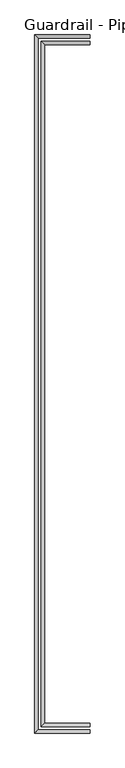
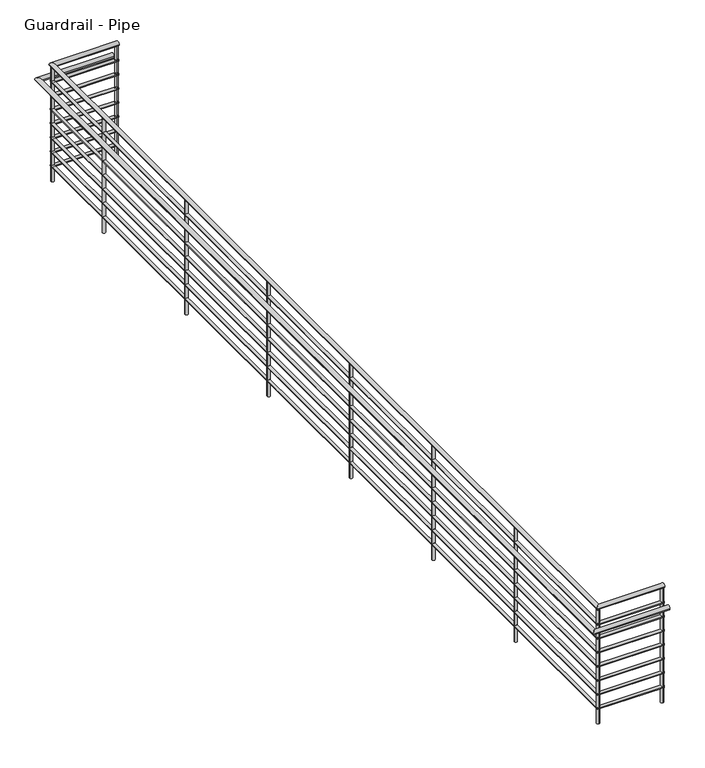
"""IFC4 building model written with IfcOpenShell, lengths in millimetres: railing geometry, Guardrail - Pipe."""

from ifc_helpers import new_model, si_unit, point, frame, frame_2d, origin, place, context, project, spatial, circle_curve, ellipse_curve, trimmed, segment, composite_curve, outline, extrude, source, transform, mapped, element, save
from ifc_brep_helpers import plane_surface, cylinder_surface, advanced_brep


def guardrail_pipe_205078b6(model_context):
    return source(origin(), model_context, "Body", "SolidModel", [
        advanced_brep(
        [(11534.3313551, 10867.95, 4705.35), (11534.3313551, 10906.05, 4705.35), (10956.4813551, 10867.95, 4705.35), (10994.5813551, 10906.05, 4705.35), (10956.4813551, 18983.25, 4705.35), (10994.5813551, 18945.15, 4705.35), (11534.3313551, 18983.25, 4705.35), (11534.3313551, 18945.15, 4705.35)],
        [
            (0, 1, circle_curve(frame((11534.3313551, 10887.0, 4705.35), z_axis=(1.0, 0.0, 0.0), x_axis=(0.0, 1.0, 0.0)), 19.05)),
            (1, 0, circle_curve(frame((11534.3313551, 10887.0, 4705.35), z_axis=(1.0, 0.0, 0.0), x_axis=(0.0, 1.0, 0.0)), 19.05)),
            (0, 2),
            (2, 3, ellipse_curve(frame((10975.5313551, 10887.0, 4705.35), z_axis=(0.7071067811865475, -0.7071067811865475, 0.0), x_axis=(0.7071067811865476, 0.7071067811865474, 0.0)), 26.9407684, 19.05)),
            (3, 1),
            (3, 2, ellipse_curve(frame((10975.5313551, 10887.0, 4705.35), z_axis=(0.7071067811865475, -0.7071067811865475, 0.0), x_axis=(0.7071067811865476, 0.7071067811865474, 0.0)), 26.9407684, 19.05)),
            (2, 4),
            (4, 5, ellipse_curve(frame((10975.5313551, 18964.2, 4705.35), z_axis=(-0.7071067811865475, -0.7071067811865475, 0.0), x_axis=(0.7071067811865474, -0.7071067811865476, 0.0)), 26.9407684, 19.05)),
            (5, 3),
            (5, 4, ellipse_curve(frame((10975.5313551, 18964.2, 4705.35), z_axis=(-0.7071067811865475, -0.7071067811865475, 0.0), x_axis=(0.7071067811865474, -0.7071067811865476, 0.0)), 26.9407684, 19.05)),
            (6, 7, circle_curve(frame((11534.3313551, 18964.2, 4705.35), z_axis=(1.0, 0.0, 0.0), x_axis=(0.0, -1.0, 0.0)), 19.05)),
            (7, 6, circle_curve(frame((11534.3313551, 18964.2, 4705.35), z_axis=(1.0, 0.0, 0.0), x_axis=(0.0, -1.0, 0.0)), 19.05)),
            (4, 6),
            (7, 5),
        ],
        [
            plane_surface(frame((11534.3313551, 10887.0, 4724.4), z_axis=(1.0, 0.0, 0.0), x_axis=(0.0, -1.0, 0.0))),
            cylinder_surface(frame((11534.3313551, 10887.0, 4705.35), z_axis=(1.0, 0.0, 0.0), x_axis=(0.0, 1.0, 0.0)), 19.05),
            cylinder_surface(frame((10975.5313551, 10887.0, 4705.35), z_axis=(0.0, -1.0, 0.0), x_axis=(1.0, 0.0, 0.0)), 19.05),
            plane_surface(frame((11534.3313551, 18964.2, 4724.4), z_axis=(1.0, 0.0, 0.0), x_axis=(0.0, 1.0, 0.0))),
            cylinder_surface(frame((10975.5313551, 18964.2, 4705.35), z_axis=(-1.0, 0.0, 0.0), x_axis=(0.0, -1.0, 0.0)), 19.05),
        ],
        [
            (0, [[1, 2]]),
            (1, [[-1, 3, 4, 5]]),
            (1, [[-2, -5, 6, -3]]),
            (2, [[-4, 7, 8, 9]]),
            (2, [[-6, -9, 10, -7]]),
            (3, [[11, 12]]),
            (4, [[-8, 13, -12, 14]]),
            (4, [[-10, -14, -11, -13]]),
        ],
    ),
        advanced_brep(
        [(11534.3313551, 10874.3, 4559.3), (11534.3313551, 10899.7, 4559.3), (10962.8313551, 10874.3, 4559.3), (10988.2313551, 10899.7, 4559.3), (10962.8313551, 18976.9, 4559.3), (10988.2313551, 18951.5, 4559.3), (11534.3313551, 18976.9, 4559.3), (11534.3313551, 18951.5, 4559.3)],
        [
            (0, 1, circle_curve(frame((11534.3313551, 10887.0, 4559.3), z_axis=(1.0, 0.0, 0.0), x_axis=(0.0, 1.0, 0.0)), 12.7)),
            (1, 0, circle_curve(frame((11534.3313551, 10887.0, 4559.3), z_axis=(1.0, 0.0, 0.0), x_axis=(0.0, 1.0, 0.0)), 12.7)),
            (0, 2),
            (2, 3, ellipse_curve(frame((10975.5313551, 10887.0, 4559.3), z_axis=(0.7071067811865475, -0.7071067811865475, 0.0), x_axis=(0.7071067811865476, 0.7071067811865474, 0.0)), 17.9605122, 12.7)),
            (3, 1),
            (3, 2, ellipse_curve(frame((10975.5313551, 10887.0, 4559.3), z_axis=(0.7071067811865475, -0.7071067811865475, 0.0), x_axis=(0.7071067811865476, 0.7071067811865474, 0.0)), 17.9605122, 12.7)),
            (2, 4),
            (4, 5, ellipse_curve(frame((10975.5313551, 18964.2, 4559.3), z_axis=(-0.7071067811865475, -0.7071067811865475, 0.0), x_axis=(0.7071067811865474, -0.7071067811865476, 0.0)), 17.9605122, 12.7)),
            (5, 3),
            (5, 4, ellipse_curve(frame((10975.5313551, 18964.2, 4559.3), z_axis=(-0.7071067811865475, -0.7071067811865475, 0.0), x_axis=(0.7071067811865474, -0.7071067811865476, 0.0)), 17.9605122, 12.7)),
            (6, 7, circle_curve(frame((11534.3313551, 18964.2, 4559.3), z_axis=(1.0, 0.0, 0.0), x_axis=(0.0, -1.0, 0.0)), 12.7)),
            (7, 6, circle_curve(frame((11534.3313551, 18964.2, 4559.3), z_axis=(1.0, 0.0, 0.0), x_axis=(0.0, -1.0, 0.0)), 12.7)),
            (4, 6),
            (7, 5),
        ],
        [
            plane_surface(frame((11534.3313551, 10887.0, 4572.0), z_axis=(1.0, 0.0, 0.0), x_axis=(0.0, -1.0, 0.0))),
            cylinder_surface(frame((11534.3313551, 10887.0, 4559.3), z_axis=(1.0, 0.0, 0.0), x_axis=(0.0, 1.0, 0.0)), 12.7),
            cylinder_surface(frame((10975.5313551, 10887.0, 4559.3), z_axis=(0.0, -1.0, 0.0), x_axis=(1.0, 0.0, 0.0)), 12.7),
            plane_surface(frame((11534.3313551, 18964.2, 4572.0), z_axis=(1.0, 0.0, 0.0), x_axis=(0.0, 1.0, 0.0))),
            cylinder_surface(frame((10975.5313551, 18964.2, 4559.3), z_axis=(-1.0, 0.0, 0.0), x_axis=(0.0, -1.0, 0.0)), 12.7),
        ],
        [
            (0, [[1, 2]]),
            (1, [[-1, 3, 4, 5]]),
            (1, [[-2, -5, 6, -3]]),
            (2, [[-4, 7, 8, 9]]),
            (2, [[-6, -9, 10, -7]]),
            (3, [[11, 12]]),
            (4, [[-8, 13, -12, 14]]),
            (4, [[-10, -14, -11, -13]]),
        ],
    ),
        advanced_brep(
        [(11534.3313551, 10791.75, 4552.95), (11534.3313551, 10829.85, 4552.95), (10880.2813551, 10791.75, 4552.95), (10918.3813551, 10829.85, 4552.95), (10880.2813551, 19059.45, 4552.95), (10918.3813551, 19021.35, 4552.95), (11534.3313551, 19059.45, 4552.95), (11534.3313551, 19021.35, 4552.95)],
        [
            (0, 1, circle_curve(frame((11534.3313551, 10810.8, 4552.95), z_axis=(1.0, 0.0, 0.0), x_axis=(0.0, 1.0, 0.0)), 19.05)),
            (1, 0, circle_curve(frame((11534.3313551, 10810.8, 4552.95), z_axis=(1.0, 0.0, 0.0), x_axis=(0.0, 1.0, 0.0)), 19.05)),
            (0, 2),
            (2, 3, ellipse_curve(frame((10899.3313551, 10810.8, 4552.95), z_axis=(0.7071067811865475, -0.7071067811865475, 0.0), x_axis=(0.7071067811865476, 0.7071067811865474, 0.0)), 26.9407684, 19.05)),
            (3, 1),
            (3, 2, ellipse_curve(frame((10899.3313551, 10810.8, 4552.95), z_axis=(0.7071067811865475, -0.7071067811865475, 0.0), x_axis=(0.7071067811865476, 0.7071067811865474, 0.0)), 26.9407684, 19.05)),
            (2, 4),
            (4, 5, ellipse_curve(frame((10899.3313551, 19040.4, 4552.95), z_axis=(-0.7071067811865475, -0.7071067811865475, 0.0), x_axis=(0.7071067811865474, -0.7071067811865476, 0.0)), 26.9407684, 19.05)),
            (5, 3),
            (5, 4, ellipse_curve(frame((10899.3313551, 19040.4, 4552.95), z_axis=(-0.7071067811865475, -0.7071067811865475, 0.0), x_axis=(0.7071067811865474, -0.7071067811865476, 0.0)), 26.9407684, 19.05)),
            (6, 7, circle_curve(frame((11534.3313551, 19040.4, 4552.95), z_axis=(1.0, 0.0, 0.0), x_axis=(0.0, -1.0, 0.0)), 19.05)),
            (7, 6, circle_curve(frame((11534.3313551, 19040.4, 4552.95), z_axis=(1.0, 0.0, 0.0), x_axis=(0.0, -1.0, 0.0)), 19.05)),
            (4, 6),
            (7, 5),
        ],
        [
            plane_surface(frame((11534.3313551, 10810.8, 4572.0), z_axis=(1.0, 0.0, 0.0), x_axis=(0.0, -1.0, 0.0))),
            cylinder_surface(frame((11534.3313551, 10810.8, 4552.95), z_axis=(1.0, 0.0, 0.0), x_axis=(0.0, 1.0, 0.0)), 19.05),
            cylinder_surface(frame((10899.3313551, 10810.8, 4552.95), z_axis=(0.0, -1.0, 0.0), x_axis=(1.0, 0.0, 0.0)), 19.05),
            plane_surface(frame((11534.3313551, 19040.4, 4572.0), z_axis=(1.0, 0.0, 0.0), x_axis=(0.0, 1.0, 0.0))),
            cylinder_surface(frame((10899.3313551, 19040.4, 4552.95), z_axis=(-1.0, 0.0, 0.0), x_axis=(0.0, -1.0, 0.0)), 19.05),
        ],
        [
            (0, [[1, 2]]),
            (1, [[-1, 3, 4, 5]]),
            (1, [[-2, -5, 6, -3]]),
            (2, [[-4, 7, 8, 9]]),
            (2, [[-6, -9, 10, -7]]),
            (3, [[11, 12]]),
            (4, [[-8, 13, -12, 14]]),
            (4, [[-10, -14, -11, -13]]),
        ],
    ),
        advanced_brep(
        [(11534.3313551, 10874.3, 4432.3), (11534.3313551, 10899.7, 4432.3), (10962.8313551, 10874.3, 4432.3), (10988.2313551, 10899.7, 4432.3), (10962.8313551, 18976.9, 4432.3), (10988.2313551, 18951.5, 4432.3), (11534.3313551, 18976.9, 4432.3), (11534.3313551, 18951.5, 4432.3)],
        [
            (0, 1, circle_curve(frame((11534.3313551, 10887.0, 4432.3), z_axis=(1.0, 0.0, 0.0), x_axis=(0.0, 1.0, 0.0)), 12.7)),
            (1, 0, circle_curve(frame((11534.3313551, 10887.0, 4432.3), z_axis=(1.0, 0.0, 0.0), x_axis=(0.0, 1.0, 0.0)), 12.7)),
            (0, 2),
            (2, 3, ellipse_curve(frame((10975.5313551, 10887.0, 4432.3), z_axis=(0.7071067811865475, -0.7071067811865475, 0.0), x_axis=(0.7071067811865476, 0.7071067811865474, 0.0)), 17.9605122, 12.7)),
            (3, 1),
            (3, 2, ellipse_curve(frame((10975.5313551, 10887.0, 4432.3), z_axis=(0.7071067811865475, -0.7071067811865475, 0.0), x_axis=(0.7071067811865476, 0.7071067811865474, 0.0)), 17.9605122, 12.7)),
            (2, 4),
            (4, 5, ellipse_curve(frame((10975.5313551, 18964.2, 4432.3), z_axis=(-0.7071067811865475, -0.7071067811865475, 0.0), x_axis=(0.7071067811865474, -0.7071067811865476, 0.0)), 17.9605122, 12.7)),
            (5, 3),
            (5, 4, ellipse_curve(frame((10975.5313551, 18964.2, 4432.3), z_axis=(-0.7071067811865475, -0.7071067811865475, 0.0), x_axis=(0.7071067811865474, -0.7071067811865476, 0.0)), 17.9605122, 12.7)),
            (6, 7, circle_curve(frame((11534.3313551, 18964.2, 4432.3), z_axis=(1.0, 0.0, 0.0), x_axis=(0.0, -1.0, 0.0)), 12.7)),
            (7, 6, circle_curve(frame((11534.3313551, 18964.2, 4432.3), z_axis=(1.0, 0.0, 0.0), x_axis=(0.0, -1.0, 0.0)), 12.7)),
            (4, 6),
            (7, 5),
        ],
        [
            plane_surface(frame((11534.3313551, 10887.0, 4445.0), z_axis=(1.0, 0.0, 0.0), x_axis=(0.0, -1.0, 0.0))),
            cylinder_surface(frame((11534.3313551, 10887.0, 4432.3), z_axis=(1.0, 0.0, 0.0), x_axis=(0.0, 1.0, 0.0)), 12.7),
            cylinder_surface(frame((10975.5313551, 10887.0, 4432.3), z_axis=(0.0, -1.0, 0.0), x_axis=(1.0, 0.0, 0.0)), 12.7),
            plane_surface(frame((11534.3313551, 18964.2, 4445.0), z_axis=(1.0, 0.0, 0.0), x_axis=(0.0, 1.0, 0.0))),
            cylinder_surface(frame((10975.5313551, 18964.2, 4432.3), z_axis=(-1.0, 0.0, 0.0), x_axis=(0.0, -1.0, 0.0)), 12.7),
        ],
        [
            (0, [[1, 2]]),
            (1, [[-1, 3, 4, 5]]),
            (1, [[-2, -5, 6, -3]]),
            (2, [[-4, 7, 8, 9]]),
            (2, [[-6, -9, 10, -7]]),
            (3, [[11, 12]]),
            (4, [[-8, 13, -12, 14]]),
            (4, [[-10, -14, -11, -13]]),
        ],
    ),
        advanced_brep(
        [(11534.3313551, 10874.3, 4305.3), (11534.3313551, 10899.7, 4305.3), (10962.8313551, 10874.3, 4305.3), (10988.2313551, 10899.7, 4305.3), (10962.8313551, 18976.9, 4305.3), (10988.2313551, 18951.5, 4305.3), (11534.3313551, 18976.9, 4305.3), (11534.3313551, 18951.5, 4305.3)],
        [
            (0, 1, circle_curve(frame((11534.3313551, 10887.0, 4305.3), z_axis=(1.0, 0.0, 0.0), x_axis=(0.0, 1.0, 0.0)), 12.7)),
            (1, 0, circle_curve(frame((11534.3313551, 10887.0, 4305.3), z_axis=(1.0, 0.0, 0.0), x_axis=(0.0, 1.0, 0.0)), 12.7)),
            (0, 2),
            (2, 3, ellipse_curve(frame((10975.5313551, 10887.0, 4305.3), z_axis=(0.7071067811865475, -0.7071067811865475, 0.0), x_axis=(0.7071067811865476, 0.7071067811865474, 0.0)), 17.9605122, 12.7)),
            (3, 1),
            (3, 2, ellipse_curve(frame((10975.5313551, 10887.0, 4305.3), z_axis=(0.7071067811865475, -0.7071067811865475, 0.0), x_axis=(0.7071067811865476, 0.7071067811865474, 0.0)), 17.9605122, 12.7)),
            (2, 4),
            (4, 5, ellipse_curve(frame((10975.5313551, 18964.2, 4305.3), z_axis=(-0.7071067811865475, -0.7071067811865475, 0.0), x_axis=(0.7071067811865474, -0.7071067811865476, 0.0)), 17.9605122, 12.7)),
            (5, 3),
            (5, 4, ellipse_curve(frame((10975.5313551, 18964.2, 4305.3), z_axis=(-0.7071067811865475, -0.7071067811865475, 0.0), x_axis=(0.7071067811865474, -0.7071067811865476, 0.0)), 17.9605122, 12.7)),
            (6, 7, circle_curve(frame((11534.3313551, 18964.2, 4305.3), z_axis=(1.0, 0.0, 0.0), x_axis=(0.0, -1.0, 0.0)), 12.7)),
            (7, 6, circle_curve(frame((11534.3313551, 18964.2, 4305.3), z_axis=(1.0, 0.0, 0.0), x_axis=(0.0, -1.0, 0.0)), 12.7)),
            (4, 6),
            (7, 5),
        ],
        [
            plane_surface(frame((11534.3313551, 10887.0, 4318.0), z_axis=(1.0, 0.0, 0.0), x_axis=(0.0, -1.0, 0.0))),
            cylinder_surface(frame((11534.3313551, 10887.0, 4305.3), z_axis=(1.0, 0.0, 0.0), x_axis=(0.0, 1.0, 0.0)), 12.7),
            cylinder_surface(frame((10975.5313551, 10887.0, 4305.3), z_axis=(0.0, -1.0, 0.0), x_axis=(1.0, 0.0, 0.0)), 12.7),
            plane_surface(frame((11534.3313551, 18964.2, 4318.0), z_axis=(1.0, 0.0, 0.0), x_axis=(0.0, 1.0, 0.0))),
            cylinder_surface(frame((10975.5313551, 18964.2, 4305.3), z_axis=(-1.0, 0.0, 0.0), x_axis=(0.0, -1.0, 0.0)), 12.7),
        ],
        [
            (0, [[1, 2]]),
            (1, [[-1, 3, 4, 5]]),
            (1, [[-2, -5, 6, -3]]),
            (2, [[-4, 7, 8, 9]]),
            (2, [[-6, -9, 10, -7]]),
            (3, [[11, 12]]),
            (4, [[-8, 13, -12, 14]]),
            (4, [[-10, -14, -11, -13]]),
        ],
    ),
        advanced_brep(
        [(11534.3313551, 10874.3, 4178.3), (11534.3313551, 10899.7, 4178.3), (10962.8313551, 10874.3, 4178.3), (10988.2313551, 10899.7, 4178.3), (10962.8313551, 18976.9, 4178.3), (10988.2313551, 18951.5, 4178.3), (11534.3313551, 18976.9, 4178.3), (11534.3313551, 18951.5, 4178.3)],
        [
            (0, 1, circle_curve(frame((11534.3313551, 10887.0, 4178.3), z_axis=(1.0, 0.0, 0.0), x_axis=(0.0, 1.0, 0.0)), 12.7)),
            (1, 0, circle_curve(frame((11534.3313551, 10887.0, 4178.3), z_axis=(1.0, 0.0, 0.0), x_axis=(0.0, 1.0, 0.0)), 12.7)),
            (0, 2),
            (2, 3, ellipse_curve(frame((10975.5313551, 10887.0, 4178.3), z_axis=(0.7071067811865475, -0.7071067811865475, 0.0), x_axis=(0.7071067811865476, 0.7071067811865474, 0.0)), 17.9605122, 12.7)),
            (3, 1),
            (3, 2, ellipse_curve(frame((10975.5313551, 10887.0, 4178.3), z_axis=(0.7071067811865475, -0.7071067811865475, 0.0), x_axis=(0.7071067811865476, 0.7071067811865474, 0.0)), 17.9605122, 12.7)),
            (2, 4),
            (4, 5, ellipse_curve(frame((10975.5313551, 18964.2, 4178.3), z_axis=(-0.7071067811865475, -0.7071067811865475, 0.0), x_axis=(0.7071067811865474, -0.7071067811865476, 0.0)), 17.9605122, 12.7)),
            (5, 3),
            (5, 4, ellipse_curve(frame((10975.5313551, 18964.2, 4178.3), z_axis=(-0.7071067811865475, -0.7071067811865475, 0.0), x_axis=(0.7071067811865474, -0.7071067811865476, 0.0)), 17.9605122, 12.7)),
            (6, 7, circle_curve(frame((11534.3313551, 18964.2, 4178.3), z_axis=(1.0, 0.0, 0.0), x_axis=(0.0, -1.0, 0.0)), 12.7)),
            (7, 6, circle_curve(frame((11534.3313551, 18964.2, 4178.3), z_axis=(1.0, 0.0, 0.0), x_axis=(0.0, -1.0, 0.0)), 12.7)),
            (4, 6),
            (7, 5),
        ],
        [
            plane_surface(frame((11534.3313551, 10887.0, 4191.0), z_axis=(1.0, 0.0, 0.0), x_axis=(0.0, -1.0, 0.0))),
            cylinder_surface(frame((11534.3313551, 10887.0, 4178.3), z_axis=(1.0, 0.0, 0.0), x_axis=(0.0, 1.0, 0.0)), 12.7),
            cylinder_surface(frame((10975.5313551, 10887.0, 4178.3), z_axis=(0.0, -1.0, 0.0), x_axis=(1.0, 0.0, 0.0)), 12.7),
            plane_surface(frame((11534.3313551, 18964.2, 4191.0), z_axis=(1.0, 0.0, 0.0), x_axis=(0.0, 1.0, 0.0))),
            cylinder_surface(frame((10975.5313551, 18964.2, 4178.3), z_axis=(-1.0, 0.0, 0.0), x_axis=(0.0, -1.0, 0.0)), 12.7),
        ],
        [
            (0, [[1, 2]]),
            (1, [[-1, 3, 4, 5]]),
            (1, [[-2, -5, 6, -3]]),
            (2, [[-4, 7, 8, 9]]),
            (2, [[-6, -9, 10, -7]]),
            (3, [[11, 12]]),
            (4, [[-8, 13, -12, 14]]),
            (4, [[-10, -14, -11, -13]]),
        ],
    ),
        advanced_brep(
        [(11534.3313551, 10874.3, 4051.3), (11534.3313551, 10899.7, 4051.3), (10962.8313551, 10874.3, 4051.3), (10988.2313551, 10899.7, 4051.3), (10962.8313551, 18976.9, 4051.3), (10988.2313551, 18951.5, 4051.3), (11534.3313551, 18976.9, 4051.3), (11534.3313551, 18951.5, 4051.3)],
        [
            (0, 1, circle_curve(frame((11534.3313551, 10887.0, 4051.3), z_axis=(1.0, 0.0, 0.0), x_axis=(0.0, 1.0, 0.0)), 12.7)),
            (1, 0, circle_curve(frame((11534.3313551, 10887.0, 4051.3), z_axis=(1.0, 0.0, 0.0), x_axis=(0.0, 1.0, 0.0)), 12.7)),
            (0, 2),
            (2, 3, ellipse_curve(frame((10975.5313551, 10887.0, 4051.3), z_axis=(0.7071067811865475, -0.7071067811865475, 0.0), x_axis=(0.7071067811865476, 0.7071067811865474, 0.0)), 17.9605122, 12.7)),
            (3, 1),
            (3, 2, ellipse_curve(frame((10975.5313551, 10887.0, 4051.3), z_axis=(0.7071067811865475, -0.7071067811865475, 0.0), x_axis=(0.7071067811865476, 0.7071067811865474, 0.0)), 17.9605122, 12.7)),
            (2, 4),
            (4, 5, ellipse_curve(frame((10975.5313551, 18964.2, 4051.3), z_axis=(-0.7071067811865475, -0.7071067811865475, 0.0), x_axis=(0.7071067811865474, -0.7071067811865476, 0.0)), 17.9605122, 12.7)),
            (5, 3),
            (5, 4, ellipse_curve(frame((10975.5313551, 18964.2, 4051.3), z_axis=(-0.7071067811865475, -0.7071067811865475, 0.0), x_axis=(0.7071067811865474, -0.7071067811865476, 0.0)), 17.9605122, 12.7)),
            (6, 7, circle_curve(frame((11534.3313551, 18964.2, 4051.3), z_axis=(1.0, 0.0, 0.0), x_axis=(0.0, -1.0, 0.0)), 12.7)),
            (7, 6, circle_curve(frame((11534.3313551, 18964.2, 4051.3), z_axis=(1.0, 0.0, 0.0), x_axis=(0.0, -1.0, 0.0)), 12.7)),
            (4, 6),
            (7, 5),
        ],
        [
            plane_surface(frame((11534.3313551, 10887.0, 4064.0), z_axis=(1.0, 0.0, 0.0), x_axis=(0.0, -1.0, 0.0))),
            cylinder_surface(frame((11534.3313551, 10887.0, 4051.3), z_axis=(1.0, 0.0, 0.0), x_axis=(0.0, 1.0, 0.0)), 12.7),
            cylinder_surface(frame((10975.5313551, 10887.0, 4051.3), z_axis=(0.0, -1.0, 0.0), x_axis=(1.0, 0.0, 0.0)), 12.7),
            plane_surface(frame((11534.3313551, 18964.2, 4064.0), z_axis=(1.0, 0.0, 0.0), x_axis=(0.0, 1.0, 0.0))),
            cylinder_surface(frame((10975.5313551, 18964.2, 4051.3), z_axis=(-1.0, 0.0, 0.0), x_axis=(0.0, -1.0, 0.0)), 12.7),
        ],
        [
            (0, [[1, 2]]),
            (1, [[-1, 3, 4, 5]]),
            (1, [[-2, -5, 6, -3]]),
            (2, [[-4, 7, 8, 9]]),
            (2, [[-6, -9, 10, -7]]),
            (3, [[11, 12]]),
            (4, [[-8, 13, -12, 14]]),
            (4, [[-10, -14, -11, -13]]),
        ],
    ),
        advanced_brep(
        [(11534.3313551, 10874.3, 3924.3), (11534.3313551, 10899.7, 3924.3), (10962.8313551, 10874.3, 3924.3), (10988.2313551, 10899.7, 3924.3), (10962.8313551, 18976.9, 3924.3), (10988.2313551, 18951.5, 3924.3), (11534.3313551, 18976.9, 3924.3), (11534.3313551, 18951.5, 3924.3)],
        [
            (0, 1, circle_curve(frame((11534.3313551, 10887.0, 3924.3), z_axis=(1.0, 0.0, 0.0), x_axis=(0.0, 1.0, 0.0)), 12.7)),
            (1, 0, circle_curve(frame((11534.3313551, 10887.0, 3924.3), z_axis=(1.0, 0.0, 0.0), x_axis=(0.0, 1.0, 0.0)), 12.7)),
            (0, 2),
            (2, 3, ellipse_curve(frame((10975.5313551, 10887.0, 3924.3), z_axis=(0.7071067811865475, -0.7071067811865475, 0.0), x_axis=(0.7071067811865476, 0.7071067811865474, 0.0)), 17.9605122, 12.7)),
            (3, 1),
            (3, 2, ellipse_curve(frame((10975.5313551, 10887.0, 3924.3), z_axis=(0.7071067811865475, -0.7071067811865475, 0.0), x_axis=(0.7071067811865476, 0.7071067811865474, 0.0)), 17.9605122, 12.7)),
            (2, 4),
            (4, 5, ellipse_curve(frame((10975.5313551, 18964.2, 3924.3), z_axis=(-0.7071067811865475, -0.7071067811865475, 0.0), x_axis=(0.7071067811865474, -0.7071067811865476, 0.0)), 17.9605122, 12.7)),
            (5, 3),
            (5, 4, ellipse_curve(frame((10975.5313551, 18964.2, 3924.3), z_axis=(-0.7071067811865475, -0.7071067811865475, 0.0), x_axis=(0.7071067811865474, -0.7071067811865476, 0.0)), 17.9605122, 12.7)),
            (6, 7, circle_curve(frame((11534.3313551, 18964.2, 3924.3), z_axis=(1.0, 0.0, 0.0), x_axis=(0.0, -1.0, 0.0)), 12.7)),
            (7, 6, circle_curve(frame((11534.3313551, 18964.2, 3924.3), z_axis=(1.0, 0.0, 0.0), x_axis=(0.0, -1.0, 0.0)), 12.7)),
            (4, 6),
            (7, 5),
        ],
        [
            plane_surface(frame((11534.3313551, 10887.0, 3937.0), z_axis=(1.0, 0.0, 0.0), x_axis=(0.0, -1.0, 0.0))),
            cylinder_surface(frame((11534.3313551, 10887.0, 3924.3), z_axis=(1.0, 0.0, 0.0), x_axis=(0.0, 1.0, 0.0)), 12.7),
            cylinder_surface(frame((10975.5313551, 10887.0, 3924.3), z_axis=(0.0, -1.0, 0.0), x_axis=(1.0, 0.0, 0.0)), 12.7),
            plane_surface(frame((11534.3313551, 18964.2, 3937.0), z_axis=(1.0, 0.0, 0.0), x_axis=(0.0, 1.0, 0.0))),
            cylinder_surface(frame((10975.5313551, 18964.2, 3924.3), z_axis=(-1.0, 0.0, 0.0), x_axis=(0.0, -1.0, 0.0)), 12.7),
        ],
        [
            (0, [[1, 2]]),
            (1, [[-1, 3, 4, 5]]),
            (1, [[-2, -5, 6, -3]]),
            (2, [[-4, 7, 8, 9]]),
            (2, [[-6, -9, 10, -7]]),
            (3, [[11, 12]]),
            (4, [[-8, 13, -12, 14]]),
            (4, [[-10, -14, -11, -13]]),
        ],
    ),
        advanced_brep(
        [(11534.3313551, 10874.3, 3797.3), (11534.3313551, 10899.7, 3797.3), (10962.8313551, 10874.3, 3797.3), (10988.2313551, 10899.7, 3797.3), (10962.8313551, 18976.9, 3797.3), (10988.2313551, 18951.5, 3797.3), (11534.3313551, 18976.9, 3797.3), (11534.3313551, 18951.5, 3797.3)],
        [
            (0, 1, circle_curve(frame((11534.3313551, 10887.0, 3797.3), z_axis=(1.0, 0.0, 0.0), x_axis=(0.0, 1.0, 0.0)), 12.7)),
            (1, 0, circle_curve(frame((11534.3313551, 10887.0, 3797.3), z_axis=(1.0, 0.0, 0.0), x_axis=(0.0, 1.0, 0.0)), 12.7)),
            (0, 2),
            (2, 3, ellipse_curve(frame((10975.5313551, 10887.0, 3797.3), z_axis=(0.7071067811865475, -0.7071067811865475, 0.0), x_axis=(0.7071067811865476, 0.7071067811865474, 0.0)), 17.9605122, 12.7)),
            (3, 1),
            (3, 2, ellipse_curve(frame((10975.5313551, 10887.0, 3797.3), z_axis=(0.7071067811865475, -0.7071067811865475, 0.0), x_axis=(0.7071067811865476, 0.7071067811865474, 0.0)), 17.9605122, 12.7)),
            (2, 4),
            (4, 5, ellipse_curve(frame((10975.5313551, 18964.2, 3797.3), z_axis=(-0.7071067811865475, -0.7071067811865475, 0.0), x_axis=(0.7071067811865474, -0.7071067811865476, 0.0)), 17.9605122, 12.7)),
            (5, 3),
            (5, 4, ellipse_curve(frame((10975.5313551, 18964.2, 3797.3), z_axis=(-0.7071067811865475, -0.7071067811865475, 0.0), x_axis=(0.7071067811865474, -0.7071067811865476, 0.0)), 17.9605122, 12.7)),
            (6, 7, circle_curve(frame((11534.3313551, 18964.2, 3797.3), z_axis=(1.0, 0.0, 0.0), x_axis=(0.0, -1.0, 0.0)), 12.7)),
            (7, 6, circle_curve(frame((11534.3313551, 18964.2, 3797.3), z_axis=(1.0, 0.0, 0.0), x_axis=(0.0, -1.0, 0.0)), 12.7)),
            (4, 6),
            (7, 5),
        ],
        [
            plane_surface(frame((11534.3313551, 10887.0, 3810.0), z_axis=(1.0, 0.0, 0.0), x_axis=(0.0, -1.0, 0.0))),
            cylinder_surface(frame((11534.3313551, 10887.0, 3797.3), z_axis=(1.0, 0.0, 0.0), x_axis=(0.0, 1.0, 0.0)), 12.7),
            cylinder_surface(frame((10975.5313551, 10887.0, 3797.3), z_axis=(0.0, -1.0, 0.0), x_axis=(1.0, 0.0, 0.0)), 12.7),
            plane_surface(frame((11534.3313551, 18964.2, 3810.0), z_axis=(1.0, 0.0, 0.0), x_axis=(0.0, 1.0, 0.0))),
            cylinder_surface(frame((10975.5313551, 18964.2, 3797.3), z_axis=(-1.0, 0.0, 0.0), x_axis=(0.0, -1.0, 0.0)), 12.7),
        ],
        [
            (0, [[1, 2]]),
            (1, [[-1, 3, 4, 5]]),
            (1, [[-2, -5, 6, -3]]),
            (2, [[-4, 7, 8, 9]]),
            (2, [[-6, -9, 10, -7]]),
            (3, [[11, 12]]),
            (4, [[-8, 13, -12, 14]]),
            (4, [[-10, -14, -11, -13]]),
        ],
    ),
        extrude(outline(composite_curve([segment(trimmed(circle_curve(frame_2d((10975.5313551, 18202.2)), 12.7), [point((10962.8313551, 18202.2))], [point((10988.2313551, 18202.2))], False, "CARTESIAN"), True, "CONTINUOUS"), segment(trimmed(circle_curve(frame_2d((10975.5313551, 18202.2)), 12.7), [point((10988.2313551, 18202.2))], [point((10962.8313551, 18202.2))], False, "CARTESIAN"), True, "CONTINUOUS")], self_intersect=False)), frame((0.0, 0.0, 3657.6), z_axis=(0.0, 0.0, 1.0), x_axis=(1.0, 0.0, 0.0)), (0.0, 0.0, 1.0), 1028.7),
        extrude(outline(composite_curve([segment(trimmed(circle_curve(frame_2d((10975.5313551, 16983.0)), 12.7), [point((10962.8313551, 16983.0))], [point((10988.2313551, 16983.0))], False, "CARTESIAN"), True, "CONTINUOUS"), segment(trimmed(circle_curve(frame_2d((10975.5313551, 16983.0)), 12.7), [point((10988.2313551, 16983.0))], [point((10962.8313551, 16983.0))], False, "CARTESIAN"), True, "CONTINUOUS")], self_intersect=False)), frame((0.0, 0.0, 3657.6), z_axis=(0.0, 0.0, 1.0), x_axis=(1.0, 0.0, 0.0)), (0.0, 0.0, 1.0), 1028.7),
        extrude(outline(composite_curve([segment(trimmed(circle_curve(frame_2d((10975.5313551, 15763.8)), 12.7), [point((10962.8313551, 15763.8))], [point((10988.2313551, 15763.8))], False, "CARTESIAN"), True, "CONTINUOUS"), segment(trimmed(circle_curve(frame_2d((10975.5313551, 15763.8)), 12.7), [point((10988.2313551, 15763.8))], [point((10962.8313551, 15763.8))], False, "CARTESIAN"), True, "CONTINUOUS")], self_intersect=False)), frame((0.0, 0.0, 3657.6), z_axis=(0.0, 0.0, 1.0), x_axis=(1.0, 0.0, 0.0)), (0.0, 0.0, 1.0), 1028.7),
        extrude(outline(composite_curve([segment(trimmed(circle_curve(frame_2d((10975.5313551, 14544.6)), 12.7), [point((10962.8313551, 14544.6))], [point((10988.2313551, 14544.6))], False, "CARTESIAN"), True, "CONTINUOUS"), segment(trimmed(circle_curve(frame_2d((10975.5313551, 14544.6)), 12.7), [point((10988.2313551, 14544.6))], [point((10962.8313551, 14544.6))], False, "CARTESIAN"), True, "CONTINUOUS")], self_intersect=False)), frame((0.0, 0.0, 3657.6), z_axis=(0.0, 0.0, 1.0), x_axis=(1.0, 0.0, 0.0)), (0.0, 0.0, 1.0), 1028.7),
        extrude(outline(composite_curve([segment(trimmed(circle_curve(frame_2d((10975.5313551, 13325.4)), 12.7), [point((10962.8313551, 13325.4))], [point((10988.2313551, 13325.4))], False, "CARTESIAN"), True, "CONTINUOUS"), segment(trimmed(circle_curve(frame_2d((10975.5313551, 13325.4)), 12.7), [point((10988.2313551, 13325.4))], [point((10962.8313551, 13325.4))], False, "CARTESIAN"), True, "CONTINUOUS")], self_intersect=False)), frame((0.0, 0.0, 3657.6), z_axis=(0.0, 0.0, 1.0), x_axis=(1.0, 0.0, 0.0)), (0.0, 0.0, 1.0), 1028.7),
        extrude(outline(composite_curve([segment(trimmed(circle_curve(frame_2d((10975.5313551, 12106.2)), 12.7), [point((10962.8313551, 12106.2))], [point((10988.2313551, 12106.2))], False, "CARTESIAN"), True, "CONTINUOUS"), segment(trimmed(circle_curve(frame_2d((10975.5313551, 12106.2)), 12.7), [point((10988.2313551, 12106.2))], [point((10962.8313551, 12106.2))], False, "CARTESIAN"), True, "CONTINUOUS")], self_intersect=False)), frame((0.0, 0.0, 3657.6), z_axis=(0.0, 0.0, 1.0), x_axis=(1.0, 0.0, 0.0)), (0.0, 0.0, 1.0), 1028.7),
        extrude(outline(composite_curve([segment(trimmed(circle_curve(frame_2d((10975.5313551, 18964.2)), 12.7), [point((10962.8313551, 18964.2))], [point((10988.2313551, 18964.2))], False, "CARTESIAN"), True, "CONTINUOUS"), segment(trimmed(circle_curve(frame_2d((10975.5313551, 18964.2)), 12.7), [point((10988.2313551, 18964.2))], [point((10962.8313551, 18964.2))], False, "CARTESIAN"), True, "CONTINUOUS")], self_intersect=False)), frame((0.0, 0.0, 3657.6), z_axis=(0.0, 0.0, 1.0), x_axis=(1.0, 0.0, 0.0)), (0.0, 0.0, 1.0), 1028.7),
        extrude(outline(composite_curve([segment(trimmed(circle_curve(frame_2d((10975.5313551, 10887.0)), 12.7), [point((10975.5313551, 10874.3))], [point((10975.5313551, 10899.7))], False, "CARTESIAN"), True, "CONTINUOUS"), segment(trimmed(circle_curve(frame_2d((10975.5313551, 10887.0)), 12.7), [point((10975.5313551, 10899.7))], [point((10975.5313551, 10874.3))], False, "CARTESIAN"), True, "CONTINUOUS")], self_intersect=False)), frame((0.0, 0.0, 3657.6), z_axis=(0.0, 0.0, 1.0), x_axis=(1.0, 0.0, 0.0)), (0.0, 0.0, 1.0), 1028.7),
        extrude(outline(composite_curve([segment(trimmed(circle_curve(frame_2d((11521.6313551, 18964.2)), 12.7), [point((11521.6313551, 18976.9))], [point((11521.6313551, 18951.5))], False, "CARTESIAN"), True, "CONTINUOUS"), segment(trimmed(circle_curve(frame_2d((11521.6313551, 18964.2)), 12.7), [point((11521.6313551, 18951.5))], [point((11521.6313551, 18976.9))], False, "CARTESIAN"), True, "CONTINUOUS")], self_intersect=False)), frame((0.0, 0.0, 3657.6), z_axis=(0.0, 0.0, 1.0), x_axis=(1.0, 0.0, 0.0)), (0.0, 0.0, 1.0), 1028.7),
        extrude(outline(composite_curve([segment(trimmed(circle_curve(frame_2d((11521.6313551, 10887.0)), 12.7), [point((11521.6313551, 10874.3))], [point((11521.6313551, 10899.7))], False, "CARTESIAN"), True, "CONTINUOUS"), segment(trimmed(circle_curve(frame_2d((11521.6313551, 10887.0)), 12.7), [point((11521.6313551, 10899.7))], [point((11521.6313551, 10874.3))], False, "CARTESIAN"), True, "CONTINUOUS")], self_intersect=False)), frame((0.0, 0.0, 3657.6), z_axis=(0.0, 0.0, 1.0), x_axis=(1.0, 0.0, 0.0)), (0.0, 0.0, 1.0), 1028.7),
    ])


if __name__ == "__main__":
    model = new_model("IFC4")
    model_context = context("Model", 3, world=origin())
    ifc_project = project(units=[si_unit("LENGTHUNIT", "METRE", prefix="MILLI")], contexts=[model_context])
    site = spatial("IfcSite", under=ifc_project)
    building = spatial("IfcBuilding", under=site)
    placement = place(None, origin())
    guardrail_pipe_shape = guardrail_pipe_205078b6(model_context)
    element("IfcRailing", 1, ObjectType="Guardrail - Pipe", at=placement, inside=building, context=model_context, shape_type="MappedRepresentation", body=[
        mapped(guardrail_pipe_shape, transform((0.0, 0.0, 0.0), x_axis=(1.0, 0.0, 0.0), y_axis=(0.0, 1.0, 0.0), z_axis=(0.0, 0.0, 1.0))),
    ])
    save(model, "model.ifc")
